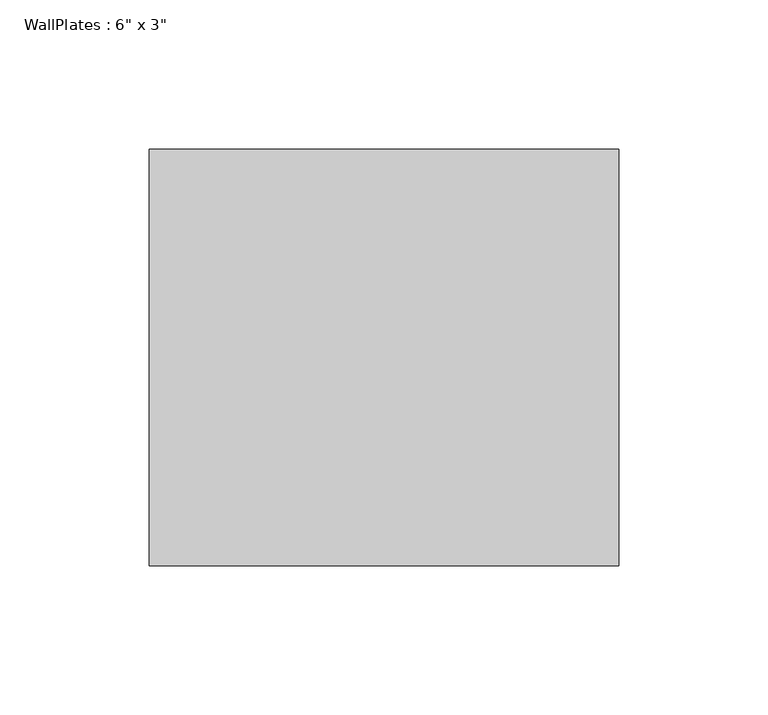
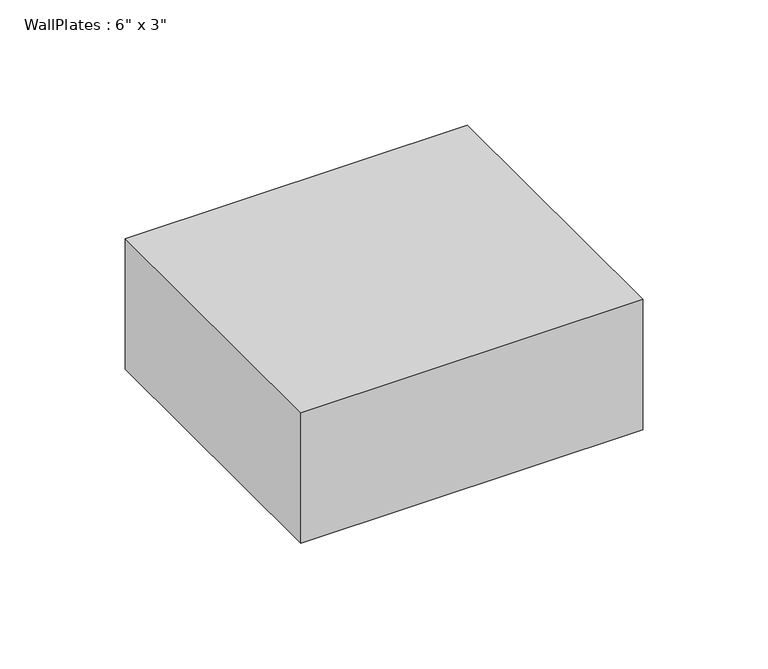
"""IFC4 building model written with IfcOpenShell, lengths in millimetres: beam geometry."""

from ifc_helpers import new_model, si_unit, frame, origin, place, context, project, spatial, polyline, outline, extrude, source, transform, mapped, element, save


def beam_3b652aa8(model_context):
    return source(origin(), model_context, "Body", "SweptSolid", [
        extrude(outline(polyline([(-78.745, -69.85), (-78.745, 69.85), (78.745, 69.85), (78.745, -69.85), (-78.745, -69.85)])), frame((0.0, 0.0, -31.75), z_axis=(0.0, 0.0, 1.0), x_axis=(1.0, 0.0, 0.0)), (0.0, 0.0, 1.0), 63.5),
    ])


if __name__ == "__main__":
    model = new_model("IFC4")
    model_context = context("Model", 3, world=origin())
    ifc_project = project(units=[si_unit("LENGTHUNIT", "METRE", prefix="MILLI")], contexts=[model_context])
    site = spatial("IfcSite", under=ifc_project)
    building = spatial("IfcBuilding", under=site)
    placement = place(None, origin())
    beam_shape = beam_3b652aa8(model_context)
    element("IfcBeam", 1, ObjectType="WallPlates : 6\" x 3\"", at=placement, inside=building, context=model_context, shape_type="MappedRepresentation", body=[
        mapped(beam_shape, transform((0.0, 0.0, 0.0), x_axis=(1.0, 0.0, 0.0), y_axis=(0.0, 1.0, 0.0), z_axis=(0.0, 0.0, 1.0))),
    ])
    save(model, "model.ifc")
